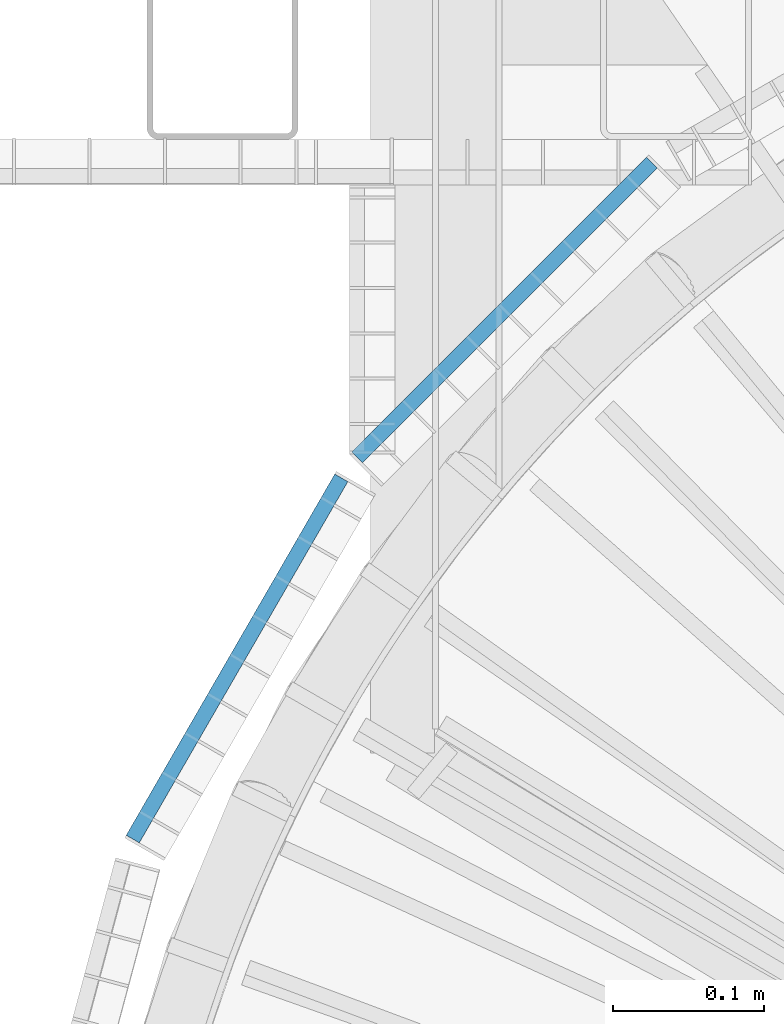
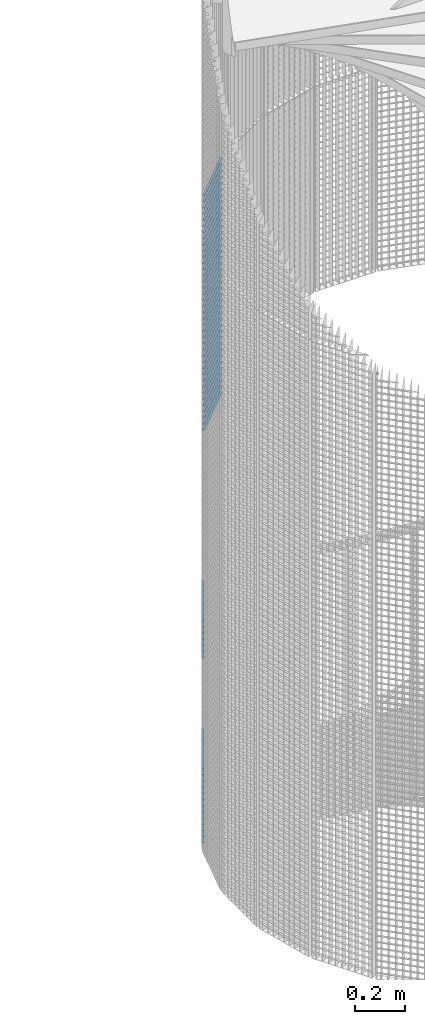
# One storey, part 211 of 1148: 59 beams, 2 elements without a shape of their own.
"""IFC2X3 building model written with IfcOpenShell, lengths in millimetres."""

from ifc_helpers import new_model, si_unit, frame, origin_with_axes, origin_2d_with_axis, place, context, subcontext, project, spatial, rectangle, extrude, material, type_object, element, aggregate, save


model = new_model("IFC2X3")

# Units and contexts
model_context = context("Model", 3, precision=1e-05, world=origin_with_axes())
body_context = subcontext(model_context, "Body", "Model", "MODEL_VIEW")
ifc_project = project(units=[si_unit("LENGTHUNIT", "METRE", prefix="MILLI"), si_unit("AREAUNIT", "SQUARE_METRE"), si_unit("VOLUMEUNIT", "CUBIC_METRE"), si_unit("MASSUNIT", "GRAM", prefix="KILO"), si_unit("TIMEUNIT", "SECOND"), si_unit("PLANEANGLEUNIT", "RADIAN"), si_unit("SOLIDANGLEUNIT", "STERADIAN"), si_unit("THERMODYNAMICTEMPERATUREUNIT", "DEGREE_CELSIUS"), si_unit("LUMINOUSINTENSITYUNIT", "LUMEN")], contexts=[model_context])

# Site, building, storey
site_placement = place(None, origin_with_axes())
site = spatial("IfcSite", under=ifc_project, at=site_placement, Name="Undefined", CompositionType="ELEMENT")
building_placement = place(site_placement, origin_with_axes())
building = spatial("IfcBuilding", under=site, at=building_placement, Name="Undefined", CompositionType="ELEMENT")
storey_placement = place(building_placement, origin_with_axes())
storey = spatial("IfcBuildingStorey", under=building, at=storey_placement, Name="Undefined", CompositionType="ELEMENT", Elevation=0.0)

# Assembly, beams
assembly_1_placement = place(storey_placement, origin_with_axes())
assembly_1 = element("IfcElementAssembly", 1, at=assembly_1_placement, inside=storey, Name="BORDURE", AssemblyPlace="NOTDEFINED", PredefinedType="NOTDEFINED")
ifc_material = material(Name="STEEL/S235JR")
beam_type = type_object("IfcBeamType", Name="PL2*10", PredefinedType="NOTDEFINED")
beam_1_placement = place(assembly_1_placement, frame((-895.30396491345, 676.248044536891, 389.999999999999), z_axis=(-0.866025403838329, 0.499999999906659, 0.0), x_axis=(-0.49999999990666, -0.866025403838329, 0.0)))
beam_1 = element("IfcBeam", 2, at=beam_1_placement, type_object=beam_type, material=ifc_material, Name="ENTRETOISE", context=body_context, shape_type="SweptSolid", body=[
    extrude(rectangle(XDim=2.0, YDim=10.0, at=origin_2d_with_axis()), frame((275.999999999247, 9.09494701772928e-13, 1.53210777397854e-14), z_axis=(-1.0, 0.0, 0.0), x_axis=(0.0, -1.0, 0.0)), (0.0, 0.0, 1.0), 276.0),
])
beam_2_placement = place(assembly_1_placement, frame((-895.303964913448, 676.248044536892, 929.999999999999), z_axis=(-0.866025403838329, 0.499999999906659, 0.0), x_axis=(-0.49999999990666, -0.866025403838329, 0.0)))
beam_2 = element("IfcBeam", 3, at=beam_2_placement, type_object=beam_type, material=ifc_material, Name="ENTRETOISE", context=body_context, shape_type="SweptSolid", body=[
    extrude(rectangle(XDim=2.0, YDim=10.0, at=origin_2d_with_axis()), frame((275.999999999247, 9.09494701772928e-13, 1.53210777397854e-14), z_axis=(-1.0, 0.0, 0.0), x_axis=(0.0, -1.0, 0.0)), (0.0, 0.0, 1.0), 276.0),
])
beam_3_placement = place(assembly_1_placement, frame((-895.30396491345, 676.248044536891, 359.999999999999), z_axis=(-0.866025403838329, 0.499999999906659, 0.0), x_axis=(-0.49999999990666, -0.866025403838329, 0.0)))
beam_3 = element("IfcBeam", 4, at=beam_3_placement, type_object=beam_type, material=ifc_material, Name="ENTRETOISE", context=body_context, shape_type="SweptSolid", body=[
    extrude(rectangle(XDim=2.0, YDim=10.0, at=origin_2d_with_axis()), frame((275.999999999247, 9.09494701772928e-13, 1.53210777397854e-14), z_axis=(-1.0, 0.0, 0.0), x_axis=(0.0, -1.0, 0.0)), (0.0, 0.0, 1.0), 276.0),
])
beam_4_placement = place(assembly_1_placement, frame((-895.303964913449, 676.248044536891, 329.999999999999), z_axis=(-0.866025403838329, 0.499999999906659, 0.0), x_axis=(-0.49999999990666, -0.866025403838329, 0.0)))
beam_4 = element("IfcBeam", 5, at=beam_4_placement, type_object=beam_type, material=ifc_material, Name="ENTRETOISE", context=body_context, shape_type="SweptSolid", body=[
    extrude(rectangle(XDim=2.0, YDim=10.0, at=origin_2d_with_axis()), frame((275.999999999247, 9.09494701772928e-13, 1.53210777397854e-14), z_axis=(-1.0, 0.0, 0.0), x_axis=(0.0, -1.0, 0.0)), (0.0, 0.0, 1.0), 276.0),
])
beam_5_placement = place(assembly_1_placement, frame((-895.303964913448, 676.248044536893, 959.999999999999), z_axis=(-0.866025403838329, 0.499999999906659, 0.0), x_axis=(-0.49999999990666, -0.866025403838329, 0.0)))
beam_5 = element("IfcBeam", 6, at=beam_5_placement, type_object=beam_type, material=ifc_material, Name="ENTRETOISE", context=body_context, shape_type="SweptSolid", body=[
    extrude(rectangle(XDim=2.0, YDim=10.0, at=origin_2d_with_axis()), frame((275.999999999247, 9.09494701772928e-13, 1.53210777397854e-14), z_axis=(-1.0, 0.0, 0.0), x_axis=(0.0, -1.0, 0.0)), (0.0, 0.0, 1.0), 276.0),
])
beam_6_placement = place(assembly_1_placement, frame((-895.303964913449, 676.248044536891, 299.999999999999), z_axis=(-0.866025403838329, 0.499999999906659, 0.0), x_axis=(-0.49999999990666, -0.866025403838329, 0.0)))
beam_6 = element("IfcBeam", 7, at=beam_6_placement, type_object=beam_type, material=ifc_material, Name="ENTRETOISE", context=body_context, shape_type="SweptSolid", body=[
    extrude(rectangle(XDim=2.0, YDim=10.0, at=origin_2d_with_axis()), frame((275.999999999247, 9.09494701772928e-13, 1.53210777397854e-14), z_axis=(-1.0, 0.0, 0.0), x_axis=(0.0, -1.0, 0.0)), (0.0, 0.0, 1.0), 276.0),
])
beam_7_placement = place(assembly_1_placement, frame((-895.303964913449, 676.248044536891, 269.999999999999), z_axis=(-0.866025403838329, 0.499999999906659, 0.0), x_axis=(-0.49999999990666, -0.866025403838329, 0.0)))
beam_7 = element("IfcBeam", 8, at=beam_7_placement, type_object=beam_type, material=ifc_material, Name="ENTRETOISE", context=body_context, shape_type="SweptSolid", body=[
    extrude(rectangle(XDim=2.0, YDim=10.0, at=origin_2d_with_axis()), frame((275.999999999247, 9.09494701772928e-13, 1.53210777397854e-14), z_axis=(-1.0, 0.0, 0.0), x_axis=(0.0, -1.0, 0.0)), (0.0, 0.0, 1.0), 276.0),
])
beam_8_placement = place(assembly_1_placement, frame((-895.303964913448, 676.248044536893, 989.999999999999), z_axis=(-0.866025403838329, 0.499999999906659, 0.0), x_axis=(-0.49999999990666, -0.866025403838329, 0.0)))
beam_8 = element("IfcBeam", 9, at=beam_8_placement, type_object=beam_type, material=ifc_material, Name="ENTRETOISE", context=body_context, shape_type="SweptSolid", body=[
    extrude(rectangle(XDim=2.0, YDim=10.0, at=origin_2d_with_axis()), frame((275.999999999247, 9.09494701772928e-13, 1.53210777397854e-14), z_axis=(-1.0, 0.0, 0.0), x_axis=(0.0, -1.0, 0.0)), (0.0, 0.0, 1.0), 276.0),
])
beam_9_placement = place(assembly_1_placement, frame((-895.303964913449, 676.24804453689, 239.999999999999), z_axis=(-0.866025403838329, 0.499999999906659, 0.0), x_axis=(-0.49999999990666, -0.866025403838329, 0.0)))
beam_9 = element("IfcBeam", 10, at=beam_9_placement, type_object=beam_type, material=ifc_material, Name="ENTRETOISE", context=body_context, shape_type="SweptSolid", body=[
    extrude(rectangle(XDim=2.0, YDim=10.0, at=origin_2d_with_axis()), frame((275.999999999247, 9.09494701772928e-13, 1.53210777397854e-14), z_axis=(-1.0, 0.0, 0.0), x_axis=(0.0, -1.0, 0.0)), (0.0, 0.0, 1.0), 276.0),
])
beam_10_placement = place(assembly_1_placement, frame((-895.303964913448, 676.248044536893, 1020.0), z_axis=(-0.866025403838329, 0.499999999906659, 0.0), x_axis=(-0.49999999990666, -0.866025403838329, 0.0)))
beam_10 = element("IfcBeam", 11, at=beam_10_placement, type_object=beam_type, material=ifc_material, Name="ENTRETOISE", context=body_context, shape_type="SweptSolid", body=[
    extrude(rectangle(XDim=2.0, YDim=10.0, at=origin_2d_with_axis()), frame((275.999999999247, 9.09494701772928e-13, 1.53210777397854e-14), z_axis=(-1.0, 0.0, 0.0), x_axis=(0.0, -1.0, 0.0)), (0.0, 0.0, 1.0), 276.0),
])
beam_11_placement = place(assembly_1_placement, frame((-895.303964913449, 676.24804453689, 209.999999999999), z_axis=(-0.866025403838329, 0.499999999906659, 0.0), x_axis=(-0.49999999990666, -0.866025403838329, 0.0)))
beam_11 = element("IfcBeam", 12, at=beam_11_placement, type_object=beam_type, material=ifc_material, Name="ENTRETOISE", context=body_context, shape_type="SweptSolid", body=[
    extrude(rectangle(XDim=2.0, YDim=10.0, at=origin_2d_with_axis()), frame((275.999999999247, 9.09494701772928e-13, 1.53210777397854e-14), z_axis=(-1.0, 0.0, 0.0), x_axis=(0.0, -1.0, 0.0)), (0.0, 0.0, 1.0), 276.0),
])
beam_12_placement = place(assembly_1_placement, frame((-895.30396491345, 676.24804453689, 179.999999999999), z_axis=(-0.866025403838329, 0.499999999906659, 0.0), x_axis=(-0.49999999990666, -0.866025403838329, 0.0)))
beam_12 = element("IfcBeam", 13, at=beam_12_placement, type_object=beam_type, material=ifc_material, Name="ENTRETOISE", context=body_context, shape_type="SweptSolid", body=[
    extrude(rectangle(XDim=2.0, YDim=10.0, at=origin_2d_with_axis()), frame((275.999999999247, 9.09494701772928e-13, 1.53210777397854e-14), z_axis=(-1.0, 0.0, 0.0), x_axis=(0.0, -1.0, 0.0)), (0.0, 0.0, 1.0), 276.0),
])
beam_13_placement = place(assembly_1_placement, frame((-895.303964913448, 676.248044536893, 1050.0), z_axis=(-0.866025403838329, 0.499999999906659, 0.0), x_axis=(-0.49999999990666, -0.866025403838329, 0.0)))
beam_13 = element("IfcBeam", 14, at=beam_13_placement, type_object=beam_type, material=ifc_material, Name="ENTRETOISE", context=body_context, shape_type="SweptSolid", body=[
    extrude(rectangle(XDim=2.0, YDim=10.0, at=origin_2d_with_axis()), frame((275.999999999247, 9.09494701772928e-13, 1.53210777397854e-14), z_axis=(-1.0, 0.0, 0.0), x_axis=(0.0, -1.0, 0.0)), (0.0, 0.0, 1.0), 276.0),
])
beam_14_placement = place(assembly_1_placement, frame((-895.30396491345, 676.24804453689, 149.999999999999), z_axis=(-0.866025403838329, 0.499999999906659, 0.0), x_axis=(-0.49999999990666, -0.866025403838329, 0.0)))
beam_14 = element("IfcBeam", 15, at=beam_14_placement, type_object=beam_type, material=ifc_material, Name="ENTRETOISE", context=body_context, shape_type="SweptSolid", body=[
    extrude(rectangle(XDim=2.0, YDim=10.0, at=origin_2d_with_axis()), frame((275.999999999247, 9.09494701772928e-13, 1.53210777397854e-14), z_axis=(-1.0, 0.0, 0.0), x_axis=(0.0, -1.0, 0.0)), (0.0, 0.0, 1.0), 276.0),
])
beam_15_placement = place(assembly_1_placement, frame((-895.30396491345, 676.24804453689, 119.999999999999), z_axis=(-0.866025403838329, 0.499999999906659, 0.0), x_axis=(-0.49999999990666, -0.866025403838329, 0.0)))
beam_15 = element("IfcBeam", 16, at=beam_15_placement, type_object=beam_type, material=ifc_material, Name="ENTRETOISE", context=body_context, shape_type="SweptSolid", body=[
    extrude(rectangle(XDim=2.0, YDim=10.0, at=origin_2d_with_axis()), frame((275.999999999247, 9.09494701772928e-13, 1.53210777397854e-14), z_axis=(-1.0, 0.0, 0.0), x_axis=(0.0, -1.0, 0.0)), (0.0, 0.0, 1.0), 276.0),
])
beam_16_placement = place(assembly_1_placement, frame((-895.303964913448, 676.248044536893, 1080.0), z_axis=(-0.866025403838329, 0.499999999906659, 0.0), x_axis=(-0.49999999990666, -0.866025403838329, 0.0)))
beam_16 = element("IfcBeam", 17, at=beam_16_placement, type_object=beam_type, material=ifc_material, Name="ENTRETOISE", context=body_context, shape_type="SweptSolid", body=[
    extrude(rectangle(XDim=2.0, YDim=10.0, at=origin_2d_with_axis()), frame((275.999999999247, 9.09494701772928e-13, 1.53210777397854e-14), z_axis=(-1.0, 0.0, 0.0), x_axis=(0.0, -1.0, 0.0)), (0.0, 0.0, 1.0), 276.0),
])
beam_17_placement = place(assembly_1_placement, frame((-895.30396491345, 676.24804453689, 89.9999999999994), z_axis=(-0.866025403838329, 0.499999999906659, 0.0), x_axis=(-0.49999999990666, -0.866025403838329, 0.0)))
beam_17 = element("IfcBeam", 18, at=beam_17_placement, type_object=beam_type, material=ifc_material, Name="ENTRETOISE", context=body_context, shape_type="SweptSolid", body=[
    extrude(rectangle(XDim=2.0, YDim=10.0, at=origin_2d_with_axis()), frame((275.999999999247, 9.09494701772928e-13, 1.53210777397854e-14), z_axis=(-1.0, 0.0, 0.0), x_axis=(0.0, -1.0, 0.0)), (0.0, 0.0, 1.0), 276.0),
])
beam_18_placement = place(assembly_1_placement, frame((-895.30396491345, 676.24804453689, 59.9999999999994), z_axis=(-0.866025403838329, 0.499999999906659, 0.0), x_axis=(-0.49999999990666, -0.866025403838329, 0.0)))
beam_18 = element("IfcBeam", 19, at=beam_18_placement, type_object=beam_type, material=ifc_material, Name="ENTRETOISE", context=body_context, shape_type="SweptSolid", body=[
    extrude(rectangle(XDim=2.0, YDim=10.0, at=origin_2d_with_axis()), frame((275.999999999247, 9.09494701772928e-13, 1.53210777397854e-14), z_axis=(-1.0, 0.0, 0.0), x_axis=(0.0, -1.0, 0.0)), (0.0, 0.0, 1.0), 276.0),
])
beam_19_placement = place(assembly_1_placement, frame((-895.303964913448, 676.248044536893, 1110.0), z_axis=(-0.866025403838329, 0.499999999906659, 0.0), x_axis=(-0.49999999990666, -0.866025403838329, 0.0)))
beam_19 = element("IfcBeam", 20, at=beam_19_placement, type_object=beam_type, material=ifc_material, Name="ENTRETOISE", context=body_context, shape_type="SweptSolid", body=[
    extrude(rectangle(XDim=2.0, YDim=10.0, at=origin_2d_with_axis()), frame((275.999999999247, 9.09494701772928e-13, 1.53210777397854e-14), z_axis=(-1.0, 0.0, 0.0), x_axis=(0.0, -1.0, 0.0)), (0.0, 0.0, 1.0), 276.0),
])
beam_20_placement = place(assembly_1_placement, frame((-895.30396491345, 676.248044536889, 29.9999999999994), z_axis=(-0.866025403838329, 0.499999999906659, 0.0), x_axis=(-0.49999999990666, -0.866025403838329, 0.0)))
beam_20 = element("IfcBeam", 21, at=beam_20_placement, type_object=beam_type, material=ifc_material, Name="ENTRETOISE", context=body_context, shape_type="SweptSolid", body=[
    extrude(rectangle(XDim=2.0, YDim=10.0, at=origin_2d_with_axis()), frame((275.999999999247, 9.09494701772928e-13, 1.53210777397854e-14), z_axis=(-1.0, 0.0, 0.0), x_axis=(0.0, -1.0, 0.0)), (0.0, 0.0, 1.0), 276.0),
])
aggregate(assembly_1, [beam_1, beam_2, beam_3, beam_4, beam_5, beam_6, beam_7, beam_8, beam_9, beam_10, beam_11, beam_12, beam_13, beam_14, beam_15, beam_16, beam_17, beam_18, beam_19, beam_20])

assembly_2_placement = place(storey_placement, origin_with_axes())
assembly_2 = element("IfcElementAssembly", 22, at=assembly_2_placement, inside=storey, Name="BORDURE", AssemblyPlace="NOTDEFINED", PredefinedType="NOTDEFINED")
beam_21_placement = place(assembly_2_placement, frame((-689.771348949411, 884.927168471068, 2970.0), z_axis=(-0.707106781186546, 0.707106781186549, 0.0), x_axis=(-0.70710678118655, -0.707106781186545, 0.0)))
beam_21 = element("IfcBeam", 23, at=beam_21_placement, type_object=beam_type, material=ifc_material, Name="ENTRETOISE", context=body_context, shape_type="SweptSolid", body=[
    extrude(rectangle(XDim=2.0, YDim=10.0, at=origin_2d_with_axis()), frame((275.999999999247, 9.09494701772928e-13, 1.53210777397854e-14), z_axis=(-1.0, 0.0, 0.0), x_axis=(0.0, -1.0, 0.0)), (0.0, 0.0, 1.0), 276.0),
])
beam_22_placement = place(assembly_2_placement, frame((-689.771348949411, 884.927168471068, 2940.0), z_axis=(-0.707106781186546, 0.707106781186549, 0.0), x_axis=(-0.70710678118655, -0.707106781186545, 0.0)))
beam_22 = element("IfcBeam", 24, at=beam_22_placement, type_object=beam_type, material=ifc_material, Name="ENTRETOISE", context=body_context, shape_type="SweptSolid", body=[
    extrude(rectangle(XDim=2.0, YDim=10.0, at=origin_2d_with_axis()), frame((275.999999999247, 9.09494701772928e-13, 1.53210777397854e-14), z_axis=(-1.0, 0.0, 0.0), x_axis=(0.0, -1.0, 0.0)), (0.0, 0.0, 1.0), 276.0),
])
beam_23_placement = place(assembly_2_placement, frame((-689.771348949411, 884.927168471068, 2910.0), z_axis=(-0.707106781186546, 0.707106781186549, 0.0), x_axis=(-0.70710678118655, -0.707106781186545, 0.0)))
beam_23 = element("IfcBeam", 25, at=beam_23_placement, type_object=beam_type, material=ifc_material, Name="ENTRETOISE", context=body_context, shape_type="SweptSolid", body=[
    extrude(rectangle(XDim=2.0, YDim=10.0, at=origin_2d_with_axis()), frame((275.999999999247, 9.09494701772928e-13, 1.53210777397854e-14), z_axis=(-1.0, 0.0, 0.0), x_axis=(0.0, -1.0, 0.0)), (0.0, 0.0, 1.0), 276.0),
])
beam_24_placement = place(assembly_2_placement, frame((-689.771348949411, 884.927168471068, 2880.0), z_axis=(-0.707106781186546, 0.707106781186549, 0.0), x_axis=(-0.70710678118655, -0.707106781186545, 0.0)))
beam_24 = element("IfcBeam", 26, at=beam_24_placement, type_object=beam_type, material=ifc_material, Name="ENTRETOISE", context=body_context, shape_type="SweptSolid", body=[
    extrude(rectangle(XDim=2.0, YDim=10.0, at=origin_2d_with_axis()), frame((275.999999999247, 9.09494701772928e-13, 1.53210777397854e-14), z_axis=(-1.0, 0.0, 0.0), x_axis=(0.0, -1.0, 0.0)), (0.0, 0.0, 1.0), 276.0),
])
beam_25_placement = place(assembly_2_placement, frame((-689.771348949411, 884.927168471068, 2850.0), z_axis=(-0.707106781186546, 0.707106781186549, 0.0), x_axis=(-0.70710678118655, -0.707106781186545, 0.0)))
beam_25 = element("IfcBeam", 27, at=beam_25_placement, type_object=beam_type, material=ifc_material, Name="ENTRETOISE", context=body_context, shape_type="SweptSolid", body=[
    extrude(rectangle(XDim=2.0, YDim=10.0, at=origin_2d_with_axis()), frame((275.999999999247, 9.09494701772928e-13, 1.53210777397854e-14), z_axis=(-1.0, 0.0, 0.0), x_axis=(0.0, -1.0, 0.0)), (0.0, 0.0, 1.0), 276.0),
])
beam_26_placement = place(assembly_2_placement, frame((-689.771348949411, 884.927168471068, 2820.0), z_axis=(-0.707106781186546, 0.707106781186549, 0.0), x_axis=(-0.70710678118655, -0.707106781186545, 0.0)))
beam_26 = element("IfcBeam", 28, at=beam_26_placement, type_object=beam_type, material=ifc_material, Name="ENTRETOISE", context=body_context, shape_type="SweptSolid", body=[
    extrude(rectangle(XDim=2.0, YDim=10.0, at=origin_2d_with_axis()), frame((275.999999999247, 9.09494701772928e-13, 1.53210777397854e-14), z_axis=(-1.0, 0.0, 0.0), x_axis=(0.0, -1.0, 0.0)), (0.0, 0.0, 1.0), 276.0),
])
beam_27_placement = place(assembly_2_placement, frame((-689.771348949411, 884.927168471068, 2790.0), z_axis=(-0.707106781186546, 0.707106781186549, 0.0), x_axis=(-0.70710678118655, -0.707106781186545, 0.0)))
beam_27 = element("IfcBeam", 29, at=beam_27_placement, type_object=beam_type, material=ifc_material, Name="ENTRETOISE", context=body_context, shape_type="SweptSolid", body=[
    extrude(rectangle(XDim=2.0, YDim=10.0, at=origin_2d_with_axis()), frame((275.999999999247, 9.09494701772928e-13, 1.53210777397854e-14), z_axis=(-1.0, 0.0, 0.0), x_axis=(0.0, -1.0, 0.0)), (0.0, 0.0, 1.0), 276.0),
])
beam_28_placement = place(assembly_2_placement, frame((-689.771348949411, 884.927168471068, 2760.0), z_axis=(-0.707106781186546, 0.707106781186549, 0.0), x_axis=(-0.70710678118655, -0.707106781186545, 0.0)))
beam_28 = element("IfcBeam", 30, at=beam_28_placement, type_object=beam_type, material=ifc_material, Name="ENTRETOISE", context=body_context, shape_type="SweptSolid", body=[
    extrude(rectangle(XDim=2.0, YDim=10.0, at=origin_2d_with_axis()), frame((275.999999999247, 9.09494701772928e-13, 1.53210777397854e-14), z_axis=(-1.0, 0.0, 0.0), x_axis=(0.0, -1.0, 0.0)), (0.0, 0.0, 1.0), 276.0),
])
beam_29_placement = place(assembly_2_placement, frame((-689.771348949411, 884.927168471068, 2730.0), z_axis=(-0.707106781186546, 0.707106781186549, 0.0), x_axis=(-0.70710678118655, -0.707106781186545, 0.0)))
beam_29 = element("IfcBeam", 31, at=beam_29_placement, type_object=beam_type, material=ifc_material, Name="ENTRETOISE", context=body_context, shape_type="SweptSolid", body=[
    extrude(rectangle(XDim=2.0, YDim=10.0, at=origin_2d_with_axis()), frame((275.999999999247, 9.09494701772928e-13, 1.53210777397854e-14), z_axis=(-1.0, 0.0, 0.0), x_axis=(0.0, -1.0, 0.0)), (0.0, 0.0, 1.0), 276.0),
])
beam_30_placement = place(assembly_2_placement, frame((-689.771348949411, 884.927168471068, 2700.0), z_axis=(-0.707106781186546, 0.707106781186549, 0.0), x_axis=(-0.70710678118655, -0.707106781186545, 0.0)))
beam_30 = element("IfcBeam", 32, at=beam_30_placement, type_object=beam_type, material=ifc_material, Name="ENTRETOISE", context=body_context, shape_type="SweptSolid", body=[
    extrude(rectangle(XDim=2.0, YDim=10.0, at=origin_2d_with_axis()), frame((275.999999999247, 9.09494701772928e-13, 1.53210777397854e-14), z_axis=(-1.0, 0.0, 0.0), x_axis=(0.0, -1.0, 0.0)), (0.0, 0.0, 1.0), 276.0),
])
beam_31_placement = place(assembly_2_placement, frame((-689.771348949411, 884.927168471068, 2670.0), z_axis=(-0.707106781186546, 0.707106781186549, 0.0), x_axis=(-0.70710678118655, -0.707106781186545, 0.0)))
beam_31 = element("IfcBeam", 33, at=beam_31_placement, type_object=beam_type, material=ifc_material, Name="ENTRETOISE", context=body_context, shape_type="SweptSolid", body=[
    extrude(rectangle(XDim=2.0, YDim=10.0, at=origin_2d_with_axis()), frame((275.999999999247, 9.09494701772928e-13, 1.53210777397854e-14), z_axis=(-1.0, 0.0, 0.0), x_axis=(0.0, -1.0, 0.0)), (0.0, 0.0, 1.0), 276.0),
])
beam_32_placement = place(assembly_2_placement, frame((-689.771348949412, 884.927168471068, 2640.0), z_axis=(-0.707106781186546, 0.707106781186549, 0.0), x_axis=(-0.70710678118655, -0.707106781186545, 0.0)))
beam_32 = element("IfcBeam", 34, at=beam_32_placement, type_object=beam_type, material=ifc_material, Name="ENTRETOISE", context=body_context, shape_type="SweptSolid", body=[
    extrude(rectangle(XDim=2.0, YDim=10.0, at=origin_2d_with_axis()), frame((275.999999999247, 9.09494701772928e-13, 1.53210777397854e-14), z_axis=(-1.0, 0.0, 0.0), x_axis=(0.0, -1.0, 0.0)), (0.0, 0.0, 1.0), 276.0),
])
beam_33_placement = place(assembly_2_placement, frame((-689.771348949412, 884.927168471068, 2610.0), z_axis=(-0.707106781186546, 0.707106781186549, 0.0), x_axis=(-0.70710678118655, -0.707106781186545, 0.0)))
beam_33 = element("IfcBeam", 35, at=beam_33_placement, type_object=beam_type, material=ifc_material, Name="ENTRETOISE", context=body_context, shape_type="SweptSolid", body=[
    extrude(rectangle(XDim=2.0, YDim=10.0, at=origin_2d_with_axis()), frame((275.999999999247, 9.09494701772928e-13, 1.53210777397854e-14), z_axis=(-1.0, 0.0, 0.0), x_axis=(0.0, -1.0, 0.0)), (0.0, 0.0, 1.0), 276.0),
])
beam_34_placement = place(assembly_2_placement, frame((-689.771348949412, 884.927168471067, 2580.0), z_axis=(-0.707106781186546, 0.707106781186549, 0.0), x_axis=(-0.70710678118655, -0.707106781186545, 0.0)))
beam_34 = element("IfcBeam", 36, at=beam_34_placement, type_object=beam_type, material=ifc_material, Name="ENTRETOISE", context=body_context, shape_type="SweptSolid", body=[
    extrude(rectangle(XDim=2.0, YDim=10.0, at=origin_2d_with_axis()), frame((275.999999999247, 9.09494701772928e-13, 1.53210777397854e-14), z_axis=(-1.0, 0.0, 0.0), x_axis=(0.0, -1.0, 0.0)), (0.0, 0.0, 1.0), 276.0),
])
beam_35_placement = place(assembly_2_placement, frame((-689.771348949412, 884.927168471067, 2550.0), z_axis=(-0.707106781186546, 0.707106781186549, 0.0), x_axis=(-0.70710678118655, -0.707106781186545, 0.0)))
beam_35 = element("IfcBeam", 37, at=beam_35_placement, type_object=beam_type, material=ifc_material, Name="ENTRETOISE", context=body_context, shape_type="SweptSolid", body=[
    extrude(rectangle(XDim=2.0, YDim=10.0, at=origin_2d_with_axis()), frame((275.999999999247, 9.09494701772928e-13, 1.53210777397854e-14), z_axis=(-1.0, 0.0, 0.0), x_axis=(0.0, -1.0, 0.0)), (0.0, 0.0, 1.0), 276.0),
])
beam_36_placement = place(assembly_2_placement, frame((-689.771348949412, 884.927168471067, 2520.0), z_axis=(-0.707106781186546, 0.707106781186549, 0.0), x_axis=(-0.70710678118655, -0.707106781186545, 0.0)))
beam_36 = element("IfcBeam", 38, at=beam_36_placement, type_object=beam_type, material=ifc_material, Name="ENTRETOISE", context=body_context, shape_type="SweptSolid", body=[
    extrude(rectangle(XDim=2.0, YDim=10.0, at=origin_2d_with_axis()), frame((275.999999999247, 9.09494701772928e-13, 1.53210777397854e-14), z_axis=(-1.0, 0.0, 0.0), x_axis=(0.0, -1.0, 0.0)), (0.0, 0.0, 1.0), 276.0),
])
beam_37_placement = place(assembly_2_placement, frame((-689.771348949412, 884.927168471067, 2490.0), z_axis=(-0.707106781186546, 0.707106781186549, 0.0), x_axis=(-0.70710678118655, -0.707106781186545, 0.0)))
beam_37 = element("IfcBeam", 39, at=beam_37_placement, type_object=beam_type, material=ifc_material, Name="ENTRETOISE", context=body_context, shape_type="SweptSolid", body=[
    extrude(rectangle(XDim=2.0, YDim=10.0, at=origin_2d_with_axis()), frame((275.999999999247, 9.09494701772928e-13, 1.53210777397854e-14), z_axis=(-1.0, 0.0, 0.0), x_axis=(0.0, -1.0, 0.0)), (0.0, 0.0, 1.0), 276.0),
])
beam_38_placement = place(assembly_2_placement, frame((-689.771348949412, 884.927168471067, 2460.0), z_axis=(-0.707106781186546, 0.707106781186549, 0.0), x_axis=(-0.70710678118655, -0.707106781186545, 0.0)))
beam_38 = element("IfcBeam", 40, at=beam_38_placement, type_object=beam_type, material=ifc_material, Name="ENTRETOISE", context=body_context, shape_type="SweptSolid", body=[
    extrude(rectangle(XDim=2.0, YDim=10.0, at=origin_2d_with_axis()), frame((275.999999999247, 9.09494701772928e-13, 1.53210777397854e-14), z_axis=(-1.0, 0.0, 0.0), x_axis=(0.0, -1.0, 0.0)), (0.0, 0.0, 1.0), 276.0),
])
beam_39_placement = place(assembly_2_placement, frame((-689.771348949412, 884.927168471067, 2430.0), z_axis=(-0.707106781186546, 0.707106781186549, 0.0), x_axis=(-0.70710678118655, -0.707106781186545, 0.0)))
beam_39 = element("IfcBeam", 41, at=beam_39_placement, type_object=beam_type, material=ifc_material, Name="ENTRETOISE", context=body_context, shape_type="SweptSolid", body=[
    extrude(rectangle(XDim=2.0, YDim=10.0, at=origin_2d_with_axis()), frame((275.999999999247, 9.09494701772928e-13, 1.53210777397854e-14), z_axis=(-1.0, 0.0, 0.0), x_axis=(0.0, -1.0, 0.0)), (0.0, 0.0, 1.0), 276.0),
])
beam_40_placement = place(assembly_2_placement, frame((-689.771348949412, 884.927168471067, 2400.0), z_axis=(-0.707106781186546, 0.707106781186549, 0.0), x_axis=(-0.70710678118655, -0.707106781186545, 0.0)))
beam_40 = element("IfcBeam", 42, at=beam_40_placement, type_object=beam_type, material=ifc_material, Name="ENTRETOISE", context=body_context, shape_type="SweptSolid", body=[
    extrude(rectangle(XDim=2.0, YDim=10.0, at=origin_2d_with_axis()), frame((275.999999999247, 9.09494701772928e-13, 1.53210777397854e-14), z_axis=(-1.0, 0.0, 0.0), x_axis=(0.0, -1.0, 0.0)), (0.0, 0.0, 1.0), 276.0),
])
beam_41_placement = place(assembly_2_placement, frame((-689.771348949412, 884.927168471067, 2370.0), z_axis=(-0.707106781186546, 0.707106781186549, 0.0), x_axis=(-0.70710678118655, -0.707106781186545, 0.0)))
beam_41 = element("IfcBeam", 43, at=beam_41_placement, type_object=beam_type, material=ifc_material, Name="ENTRETOISE", context=body_context, shape_type="SweptSolid", body=[
    extrude(rectangle(XDim=2.0, YDim=10.0, at=origin_2d_with_axis()), frame((275.999999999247, 9.09494701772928e-13, 1.53210777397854e-14), z_axis=(-1.0, 0.0, 0.0), x_axis=(0.0, -1.0, 0.0)), (0.0, 0.0, 1.0), 276.0),
])
beam_42_placement = place(assembly_2_placement, frame((-689.771348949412, 884.927168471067, 2340.0), z_axis=(-0.707106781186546, 0.707106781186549, 0.0), x_axis=(-0.70710678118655, -0.707106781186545, 0.0)))
beam_42 = element("IfcBeam", 44, at=beam_42_placement, type_object=beam_type, material=ifc_material, Name="ENTRETOISE", context=body_context, shape_type="SweptSolid", body=[
    extrude(rectangle(XDim=2.0, YDim=10.0, at=origin_2d_with_axis()), frame((275.999999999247, 9.09494701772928e-13, 1.53210777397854e-14), z_axis=(-1.0, 0.0, 0.0), x_axis=(0.0, -1.0, 0.0)), (0.0, 0.0, 1.0), 276.0),
])
beam_43_placement = place(assembly_2_placement, frame((-689.771348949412, 884.927168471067, 2310.0), z_axis=(-0.707106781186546, 0.707106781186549, 0.0), x_axis=(-0.70710678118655, -0.707106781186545, 0.0)))
beam_43 = element("IfcBeam", 45, at=beam_43_placement, type_object=beam_type, material=ifc_material, Name="ENTRETOISE", context=body_context, shape_type="SweptSolid", body=[
    extrude(rectangle(XDim=2.0, YDim=10.0, at=origin_2d_with_axis()), frame((275.999999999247, 9.09494701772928e-13, 1.53210777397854e-14), z_axis=(-1.0, 0.0, 0.0), x_axis=(0.0, -1.0, 0.0)), (0.0, 0.0, 1.0), 276.0),
])
beam_44_placement = place(assembly_2_placement, frame((-689.771348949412, 884.927168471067, 2280.0), z_axis=(-0.707106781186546, 0.707106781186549, 0.0), x_axis=(-0.70710678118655, -0.707106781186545, 0.0)))
beam_44 = element("IfcBeam", 46, at=beam_44_placement, type_object=beam_type, material=ifc_material, Name="ENTRETOISE", context=body_context, shape_type="SweptSolid", body=[
    extrude(rectangle(XDim=2.0, YDim=10.0, at=origin_2d_with_axis()), frame((275.999999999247, 9.09494701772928e-13, 1.53210777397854e-14), z_axis=(-1.0, 0.0, 0.0), x_axis=(0.0, -1.0, 0.0)), (0.0, 0.0, 1.0), 276.0),
])
beam_45_placement = place(assembly_2_placement, frame((-689.771348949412, 884.927168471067, 2250.0), z_axis=(-0.707106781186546, 0.707106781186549, 0.0), x_axis=(-0.70710678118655, -0.707106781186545, 0.0)))
beam_45 = element("IfcBeam", 47, at=beam_45_placement, type_object=beam_type, material=ifc_material, Name="ENTRETOISE", context=body_context, shape_type="SweptSolid", body=[
    extrude(rectangle(XDim=2.0, YDim=10.0, at=origin_2d_with_axis()), frame((275.999999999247, 9.09494701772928e-13, 1.53210777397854e-14), z_axis=(-1.0, 0.0, 0.0), x_axis=(0.0, -1.0, 0.0)), (0.0, 0.0, 1.0), 276.0),
])
beam_46_placement = place(assembly_2_placement, frame((-689.771348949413, 884.927168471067, 2220.0), z_axis=(-0.707106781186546, 0.707106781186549, 0.0), x_axis=(-0.70710678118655, -0.707106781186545, 0.0)))
beam_46 = element("IfcBeam", 48, at=beam_46_placement, type_object=beam_type, material=ifc_material, Name="ENTRETOISE", context=body_context, shape_type="SweptSolid", body=[
    extrude(rectangle(XDim=2.0, YDim=10.0, at=origin_2d_with_axis()), frame((275.999999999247, 9.09494701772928e-13, 1.53210777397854e-14), z_axis=(-1.0, 0.0, 0.0), x_axis=(0.0, -1.0, 0.0)), (0.0, 0.0, 1.0), 276.0),
])
beam_47_placement = place(assembly_2_placement, frame((-689.771348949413, 884.927168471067, 2190.0), z_axis=(-0.707106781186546, 0.707106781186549, 0.0), x_axis=(-0.70710678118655, -0.707106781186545, 0.0)))
beam_47 = element("IfcBeam", 49, at=beam_47_placement, type_object=beam_type, material=ifc_material, Name="ENTRETOISE", context=body_context, shape_type="SweptSolid", body=[
    extrude(rectangle(XDim=2.0, YDim=10.0, at=origin_2d_with_axis()), frame((275.999999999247, 9.09494701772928e-13, 1.53210777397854e-14), z_axis=(-1.0, 0.0, 0.0), x_axis=(0.0, -1.0, 0.0)), (0.0, 0.0, 1.0), 276.0),
])
beam_48_placement = place(assembly_2_placement, frame((-689.771348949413, 884.927168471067, 2160.0), z_axis=(-0.707106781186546, 0.707106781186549, 0.0), x_axis=(-0.70710678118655, -0.707106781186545, 0.0)))
beam_48 = element("IfcBeam", 50, at=beam_48_placement, type_object=beam_type, material=ifc_material, Name="ENTRETOISE", context=body_context, shape_type="SweptSolid", body=[
    extrude(rectangle(XDim=2.0, YDim=10.0, at=origin_2d_with_axis()), frame((275.999999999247, 9.09494701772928e-13, 1.53210777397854e-14), z_axis=(-1.0, 0.0, 0.0), x_axis=(0.0, -1.0, 0.0)), (0.0, 0.0, 1.0), 276.0),
])
beam_49_placement = place(assembly_2_placement, frame((-689.771348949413, 884.927168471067, 2130.0), z_axis=(-0.707106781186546, 0.707106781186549, 0.0), x_axis=(-0.70710678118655, -0.707106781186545, 0.0)))
beam_49 = element("IfcBeam", 51, at=beam_49_placement, type_object=beam_type, material=ifc_material, Name="ENTRETOISE", context=body_context, shape_type="SweptSolid", body=[
    extrude(rectangle(XDim=2.0, YDim=10.0, at=origin_2d_with_axis()), frame((275.999999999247, 9.09494701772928e-13, 1.53210777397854e-14), z_axis=(-1.0, 0.0, 0.0), x_axis=(0.0, -1.0, 0.0)), (0.0, 0.0, 1.0), 276.0),
])
beam_50_placement = place(assembly_2_placement, frame((-689.771348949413, 884.927168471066, 2100.0), z_axis=(-0.707106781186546, 0.707106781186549, 0.0), x_axis=(-0.70710678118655, -0.707106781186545, 0.0)))
beam_50 = element("IfcBeam", 52, at=beam_50_placement, type_object=beam_type, material=ifc_material, Name="ENTRETOISE", context=body_context, shape_type="SweptSolid", body=[
    extrude(rectangle(XDim=2.0, YDim=10.0, at=origin_2d_with_axis()), frame((275.999999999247, 9.09494701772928e-13, 1.53210777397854e-14), z_axis=(-1.0, 0.0, 0.0), x_axis=(0.0, -1.0, 0.0)), (0.0, 0.0, 1.0), 276.0),
])
beam_51_placement = place(assembly_2_placement, frame((-689.771348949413, 884.927168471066, 2070.0), z_axis=(-0.707106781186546, 0.707106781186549, 0.0), x_axis=(-0.70710678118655, -0.707106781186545, 0.0)))
beam_51 = element("IfcBeam", 53, at=beam_51_placement, type_object=beam_type, material=ifc_material, Name="ENTRETOISE", context=body_context, shape_type="SweptSolid", body=[
    extrude(rectangle(XDim=2.0, YDim=10.0, at=origin_2d_with_axis()), frame((275.999999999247, 9.09494701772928e-13, 1.53210777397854e-14), z_axis=(-1.0, 0.0, 0.0), x_axis=(0.0, -1.0, 0.0)), (0.0, 0.0, 1.0), 276.0),
])
beam_52_placement = place(assembly_2_placement, frame((-689.771348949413, 884.927168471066, 2040.0), z_axis=(-0.707106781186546, 0.707106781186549, 0.0), x_axis=(-0.70710678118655, -0.707106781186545, 0.0)))
beam_52 = element("IfcBeam", 54, at=beam_52_placement, type_object=beam_type, material=ifc_material, Name="ENTRETOISE", context=body_context, shape_type="SweptSolid", body=[
    extrude(rectangle(XDim=2.0, YDim=10.0, at=origin_2d_with_axis()), frame((275.999999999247, 9.09494701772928e-13, 1.53210777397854e-14), z_axis=(-1.0, 0.0, 0.0), x_axis=(0.0, -1.0, 0.0)), (0.0, 0.0, 1.0), 276.0),
])
beam_53_placement = place(assembly_2_placement, frame((-689.771348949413, 884.927168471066, 2010.0), z_axis=(-0.707106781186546, 0.707106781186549, 0.0), x_axis=(-0.70710678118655, -0.707106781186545, 0.0)))
beam_53 = element("IfcBeam", 55, at=beam_53_placement, type_object=beam_type, material=ifc_material, Name="ENTRETOISE", context=body_context, shape_type="SweptSolid", body=[
    extrude(rectangle(XDim=2.0, YDim=10.0, at=origin_2d_with_axis()), frame((275.999999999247, 9.09494701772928e-13, 1.53210777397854e-14), z_axis=(-1.0, 0.0, 0.0), x_axis=(0.0, -1.0, 0.0)), (0.0, 0.0, 1.0), 276.0),
])
beam_54_placement = place(assembly_2_placement, frame((-689.771348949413, 884.927168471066, 1980.0), z_axis=(-0.707106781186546, 0.707106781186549, 0.0), x_axis=(-0.70710678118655, -0.707106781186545, 0.0)))
beam_54 = element("IfcBeam", 56, at=beam_54_placement, type_object=beam_type, material=ifc_material, Name="ENTRETOISE", context=body_context, shape_type="SweptSolid", body=[
    extrude(rectangle(XDim=2.0, YDim=10.0, at=origin_2d_with_axis()), frame((275.999999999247, 9.09494701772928e-13, 1.53210777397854e-14), z_axis=(-1.0, 0.0, 0.0), x_axis=(0.0, -1.0, 0.0)), (0.0, 0.0, 1.0), 276.0),
])
beam_55_placement = place(assembly_2_placement, frame((-689.771348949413, 884.927168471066, 1950.0), z_axis=(-0.707106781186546, 0.707106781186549, 0.0), x_axis=(-0.70710678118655, -0.707106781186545, 0.0)))
beam_55 = element("IfcBeam", 57, at=beam_55_placement, type_object=beam_type, material=ifc_material, Name="ENTRETOISE", context=body_context, shape_type="SweptSolid", body=[
    extrude(rectangle(XDim=2.0, YDim=10.0, at=origin_2d_with_axis()), frame((275.999999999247, 9.09494701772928e-13, 1.53210777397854e-14), z_axis=(-1.0, 0.0, 0.0), x_axis=(0.0, -1.0, 0.0)), (0.0, 0.0, 1.0), 276.0),
])
beam_56_placement = place(assembly_2_placement, frame((-689.771348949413, 884.927168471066, 1920.0), z_axis=(-0.707106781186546, 0.707106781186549, 0.0), x_axis=(-0.70710678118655, -0.707106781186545, 0.0)))
beam_56 = element("IfcBeam", 58, at=beam_56_placement, type_object=beam_type, material=ifc_material, Name="ENTRETOISE", context=body_context, shape_type="SweptSolid", body=[
    extrude(rectangle(XDim=2.0, YDim=10.0, at=origin_2d_with_axis()), frame((275.999999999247, 9.09494701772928e-13, 1.53210777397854e-14), z_axis=(-1.0, 0.0, 0.0), x_axis=(0.0, -1.0, 0.0)), (0.0, 0.0, 1.0), 276.0),
])
beam_57_placement = place(assembly_2_placement, frame((-689.771348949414, 884.927168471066, 1890.0), z_axis=(-0.707106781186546, 0.707106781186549, 0.0), x_axis=(-0.70710678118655, -0.707106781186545, 0.0)))
beam_57 = element("IfcBeam", 59, at=beam_57_placement, type_object=beam_type, material=ifc_material, Name="ENTRETOISE", context=body_context, shape_type="SweptSolid", body=[
    extrude(rectangle(XDim=2.0, YDim=10.0, at=origin_2d_with_axis()), frame((275.999999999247, 9.09494701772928e-13, 1.53210777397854e-14), z_axis=(-1.0, 0.0, 0.0), x_axis=(0.0, -1.0, 0.0)), (0.0, 0.0, 1.0), 276.0),
])
beam_58_placement = place(assembly_2_placement, frame((-689.771348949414, 884.927168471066, 1860.0), z_axis=(-0.707106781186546, 0.707106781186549, 0.0), x_axis=(-0.70710678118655, -0.707106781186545, 0.0)))
beam_58 = element("IfcBeam", 60, at=beam_58_placement, type_object=beam_type, material=ifc_material, Name="ENTRETOISE", context=body_context, shape_type="SweptSolid", body=[
    extrude(rectangle(XDim=2.0, YDim=10.0, at=origin_2d_with_axis()), frame((275.999999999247, 9.09494701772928e-13, 1.53210777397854e-14), z_axis=(-1.0, 0.0, 0.0), x_axis=(0.0, -1.0, 0.0)), (0.0, 0.0, 1.0), 276.0),
])
beam_59_placement = place(assembly_2_placement, frame((-689.771348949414, 884.927168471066, 1830.0), z_axis=(-0.707106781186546, 0.707106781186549, 0.0), x_axis=(-0.70710678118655, -0.707106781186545, 0.0)))
beam_59 = element("IfcBeam", 61, at=beam_59_placement, type_object=beam_type, material=ifc_material, Name="ENTRETOISE", context=body_context, shape_type="SweptSolid", body=[
    extrude(rectangle(XDim=2.0, YDim=10.0, at=origin_2d_with_axis()), frame((275.999999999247, 9.09494701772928e-13, 1.53210777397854e-14), z_axis=(-1.0, 0.0, 0.0), x_axis=(0.0, -1.0, 0.0)), (0.0, 0.0, 1.0), 276.0),
])
aggregate(assembly_2, [beam_21, beam_22, beam_23, beam_24, beam_25, beam_26, beam_27, beam_28, beam_29, beam_30, beam_31, beam_32, beam_33, beam_34, beam_35, beam_36, beam_37, beam_38, beam_39, beam_40, beam_41, beam_42, beam_43, beam_44, beam_45, beam_46, beam_47, beam_48, beam_49, beam_50, beam_51, beam_52, beam_53, beam_54, beam_55, beam_56, beam_57, beam_58, beam_59])

save(model, "model.ifc")
